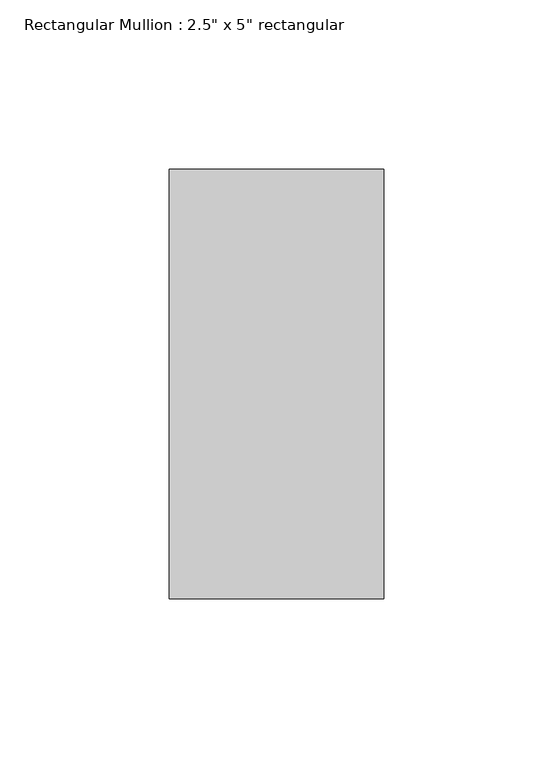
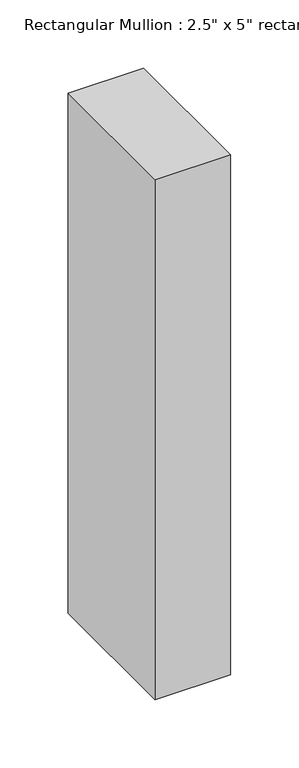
"""IFC4 building model written with IfcOpenShell, lengths in millimetres: member geometry."""

from ifc_helpers import new_model, si_unit, frame, origin, place, context, project, spatial, polyline, outline, extrude, source, transform, mapped, element, save


def member_5535eeb3(model_context):
    return source(origin(), model_context, "Body", "SweptSolid", [
        extrude(outline(polyline([(0.0, 63.5), (0.0, -63.5), (-63.5, -63.5), (-63.5, 63.5), (0.0, 63.5)])), frame((0.0, 0.0, -463.55), z_axis=(0.0, 0.0, 1.0), x_axis=(1.0, 0.0, 0.0)), (0.0, 0.0, 1.0), 463.55),
    ])


if __name__ == "__main__":
    model = new_model("IFC4")
    model_context = context("Model", 3, world=origin())
    ifc_project = project(units=[si_unit("LENGTHUNIT", "METRE", prefix="MILLI")], contexts=[model_context])
    site = spatial("IfcSite", under=ifc_project)
    building = spatial("IfcBuilding", under=site)
    placement = place(None, origin())
    member_shape = member_5535eeb3(model_context)
    element("IfcMember", 1, ObjectType="Rectangular Mullion : 2.5\" x 5\" rectangular", at=placement, inside=building, context=model_context, shape_type="MappedRepresentation", body=[
        mapped(member_shape, transform((0.0, 0.0, 0.0), x_axis=(1.0, 0.0, 0.0), y_axis=(0.0, 1.0, 0.0), z_axis=(0.0, 0.0, 1.0))),
    ])
    save(model, "model.ifc")
